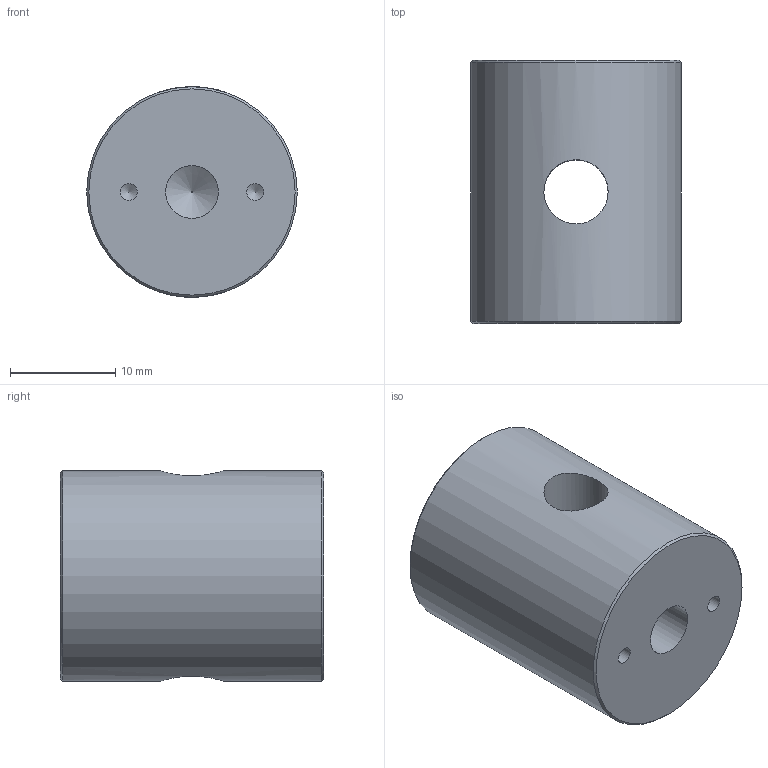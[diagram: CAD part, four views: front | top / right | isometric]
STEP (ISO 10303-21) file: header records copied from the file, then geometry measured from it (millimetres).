
FILE_DESCRIPTION (( 'STEP AP214' ), '1' );
FILE_NAME ('25mm 諉裝phi_20.STEP', '2026-10-31T08:49:37', ( '' ), ( '' ), 'SwSTEP 2.0', 'SolidWorks 2022', '' );
FILE_SCHEMA (( 'AUTOMOTIVE_DESIGN' ));
Length unit declared in the file: millimetre
Products named in the file (1): 25mm 諉裝phi_20
Bounding box: 20 x 25 x 20 mm (x, y, z)
Volume: 7000.3 mm3; surface area: 2809.2 mm2
Topology: 1 solids, 1 shells, 18 faces, 45 edges, 28 vertices
Faces by surface type: cylinder 8, cone 8, plane 2
Full cylindrical faces by diameter (mm): 1.6 x4, 3.3 x1, 5 x1, 6.1 x1, 20 x1
Entity records: 652 total; most frequent: CARTESIAN_POINT 236, DIRECTION 70, ORIENTED_EDGE 38, EDGE_LOOP 38, AXIS2_PLACEMENT_3D 35, FACE_OUTER_BOUND 26, VERTEX_POINT 19, EDGE_CURVE 19
